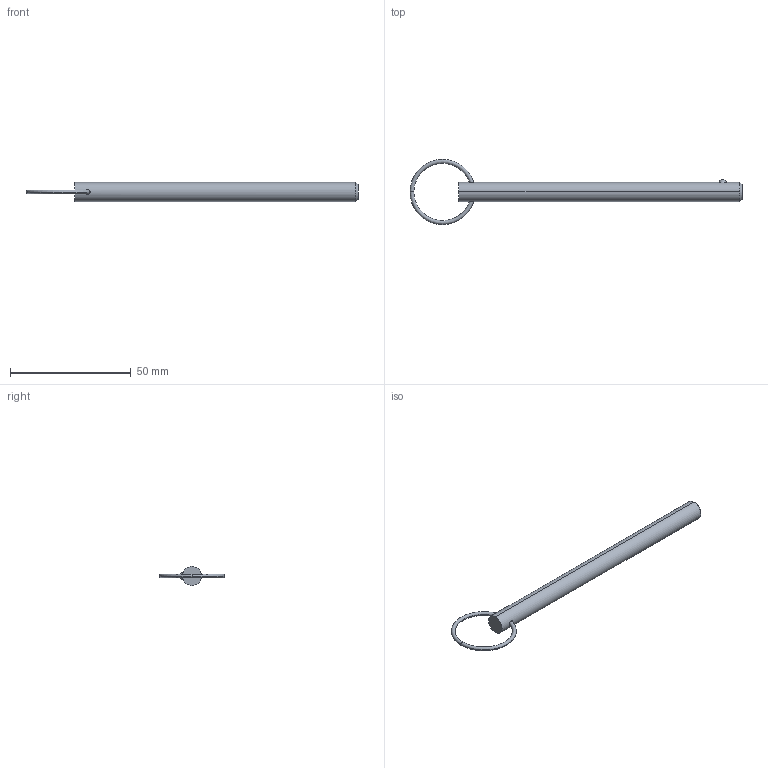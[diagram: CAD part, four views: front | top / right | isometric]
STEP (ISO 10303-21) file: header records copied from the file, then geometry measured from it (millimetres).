
FILE_DESCRIPTION (( 'STEP AP203' ), '1' );
FILE_NAME ('33012.W3140.step', '2024-11-01T14:08:50', ( '' ), ( '' ), 'SwSTEP 2.0', 'SolidWorks 2019', '' );
FILE_SCHEMA (( 'CONFIG_CONTROL_DESIGN' ));
Length unit declared in the file: millimetre
Products named in the file (3): 33012.W3140; Part1_33012.W3140; Part2_33012.W3140
Assembly tree (2 placements, depth 2):
  33012.W3140
    Part1_33012.W3140
    Part2_33012.W3140
Bounding box: 137.73 x 26.99 x 7.94 mm (x, y, z)
Volume: 5944.3 mm3; surface area: 3460 mm2
Topology: 2 solids, 2 shells, 16 faces, 31 edges, 18 vertices
Faces by surface type: torus 8, sphere 2, cone 2, cylinder 2, plane 2
Entity records: 827 total; most frequent: CARTESIAN_POINT 184, DIRECTION 88, ORIENTED_EDGE 62, AXIS2_PLACEMENT_3D 42, EDGE_CURVE 31, PERSON_AND_ORGANIZATION 26, CIRCLE 21, DATE_AND_TIME 19
